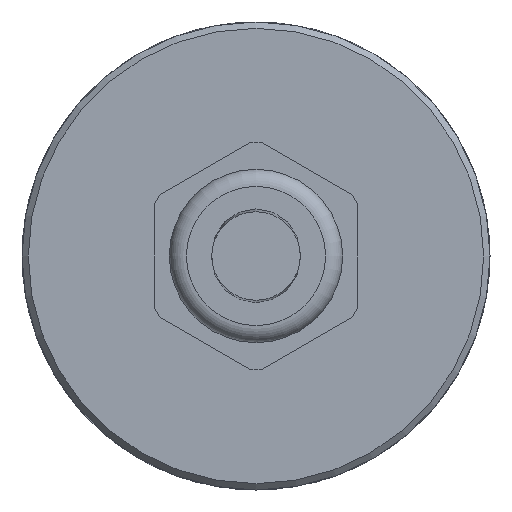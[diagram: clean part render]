
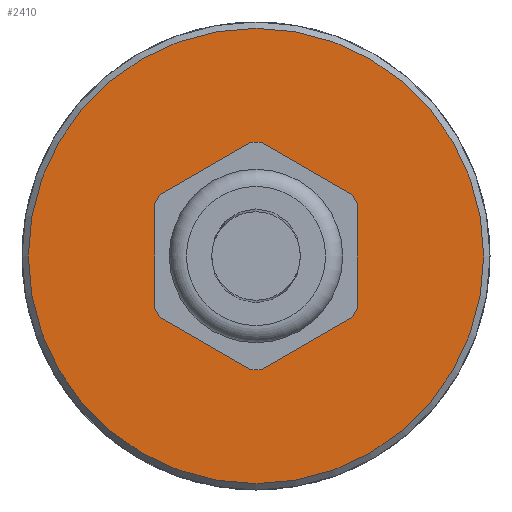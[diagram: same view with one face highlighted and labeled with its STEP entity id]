
A CAD part, left-side view. The second image highlights one B-rep face of the part: STEP entity #2410.
In plain terms, the highlighted planar face has unit normal (-1, 0, 0).
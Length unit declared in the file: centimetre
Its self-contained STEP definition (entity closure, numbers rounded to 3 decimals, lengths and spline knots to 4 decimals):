
#967=PLANE('',#2551);
#1004=VERTEX_POINT('',#3114);
#1052=VERTEX_POINT('',#3574);
#1197=CIRCLE('',#2504,0.5188);
#1220=CIRCLE('',#2550,1.8);
#1271=EDGE_CURVE('',#1004,#1004,#1197,.T.);
#1333=EDGE_CURVE('',#1052,#1052,#1220,.T.);
#1659=ORIENTED_EDGE('',*,*,#1271,.T.);
#1660=ORIENTED_EDGE('',*,*,#1333,.F.);
#2139=EDGE_LOOP('',(#1659));
#2140=EDGE_LOOP('',(#1660));
#2278=FACE_BOUND('',#2139,.T.);
#2279=FACE_BOUND('',#2140,.T.);
#2410=ADVANCED_FACE('',(#2278,#2279),#967,.T.);
#2504=AXIS2_PLACEMENT_3D('',#3113,#2683,#2684);
#2550=AXIS2_PLACEMENT_3D('',#3573,#2790,#2791);
#2551=AXIS2_PLACEMENT_3D('',#3575,#2792,$);
#2683=DIRECTION('',(1.,0.,0.));
#2684=DIRECTION('',(0.,0.,0.519));
#2790=DIRECTION('',(1.,0.,0.));
#2791=DIRECTION('',(0.,0.,1.8));
#2792=DIRECTION('',(-1.,0.,0.));
#3113=CARTESIAN_POINT('',(0.,0.,0.));
#3114=CARTESIAN_POINT('',(0.,0.,0.5188));
#3573=CARTESIAN_POINT('',(0.,0.,0.));
#3574=CARTESIAN_POINT('',(0.,0.,-1.8));
#3575=CARTESIAN_POINT('',(0.,0.,-0.925));
